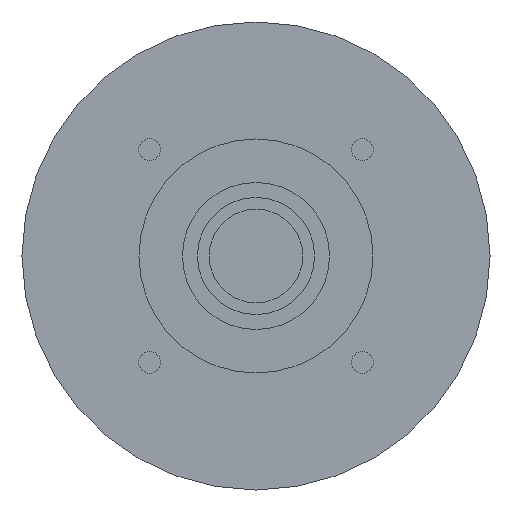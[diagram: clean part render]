
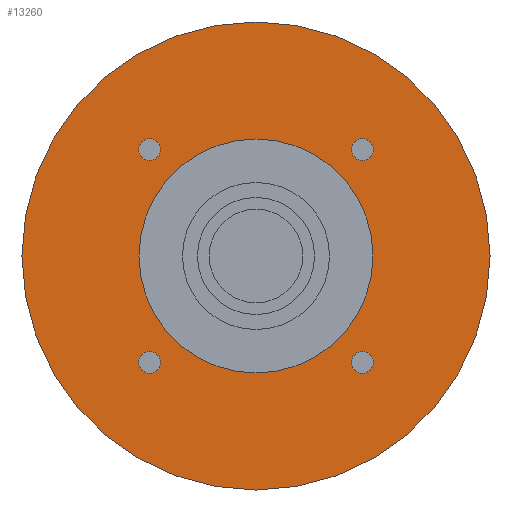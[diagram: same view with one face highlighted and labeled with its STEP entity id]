
A CAD part, left-side view. The second image highlights one B-rep face of the part: STEP entity #13260.
In plain terms, the highlighted planar face has unit normal (-1, 0, 0) as drawn and (0, 0, -1) by its records, which use the part's own axes.
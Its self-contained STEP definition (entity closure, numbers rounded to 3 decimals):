
#12100=CARTESIAN_POINT('',(31.82,28.57,-79.7));
#12110=VERTEX_POINT('',#12100);
#12140=CARTESIAN_POINT('',(31.82,31.82,-79.7));
#12150=DIRECTION('',(0.,0.,-1.));
#12160=DIRECTION('',(0.,1.,0.));
#12170=AXIS2_PLACEMENT_3D('',#12140,#12150,#12160);
#12180=CIRCLE('',#12170,3.25);
#12190=CARTESIAN_POINT('',(31.82,35.07,-79.7));
#12200=VERTEX_POINT('',#12190);
#12210=EDGE_CURVE('',#12200,#12110,#12180,.T.);
#12330=CARTESIAN_POINT('',(0.,0.,
-79.7));
#12340=DIRECTION('',(0.,0.,-1.));
#12350=DIRECTION('',(1.,0.,0.));
#12360=AXIS2_PLACEMENT_3D('',#12330,#12340,#12350);
#12370=PLANE('',#12360);
#12380=CARTESIAN_POINT('',(-31.82,31.82,-79.7));
#12390=DIRECTION('',(0.,0.,-1.));
#12400=DIRECTION('',(-1.,0.,0.));
#12410=AXIS2_PLACEMENT_3D('',#12380,#12390,#12400);
#12420=CIRCLE('',#12410,3.25);
#12430=CARTESIAN_POINT('',(-35.07,31.82,-79.7));
#12440=VERTEX_POINT('',#12430);
#12450=CARTESIAN_POINT('',(-28.57,31.82,-79.7));
#12460=VERTEX_POINT('',#12450);
#12470=EDGE_CURVE('',#12440,#12460,#12420,.T.);
#12480=ORIENTED_EDGE('',*,*,#12470,.F.);
#12490=EDGE_CURVE('',#12460,#12440,#12420,.T.);
#12500=ORIENTED_EDGE('',*,*,#12490,.F.);
#12510=EDGE_LOOP('',(#12500,#12480));
#12520=FACE_BOUND('',#12510,.T.);
#12530=CARTESIAN_POINT('',(-31.82,-31.82,-79.7));
#12540=DIRECTION('',(0.,0.,-1.));
#12550=DIRECTION('',(0.,-1.,0.));
#12560=AXIS2_PLACEMENT_3D('',#12530,#12540,#12550);
#12570=CIRCLE('',#12560,3.25);
#12580=CARTESIAN_POINT('',(-31.82,-35.07,-79.7));
#12590=VERTEX_POINT('',#12580);
#12600=CARTESIAN_POINT('',(-31.82,-28.57,-79.7));
#12610=VERTEX_POINT('',#12600);
#12620=EDGE_CURVE('',#12590,#12610,#12570,.T.);
#12630=ORIENTED_EDGE('',*,*,#12620,.F.);
#12640=EDGE_CURVE('',#12610,#12590,#12570,.T.);
#12650=ORIENTED_EDGE('',*,*,#12640,.F.);
#12660=EDGE_LOOP('',(#12650,#12630));
#12670=FACE_BOUND('',#12660,.T.);
#12680=CARTESIAN_POINT('',(0.,0.,
-79.7));
#12690=DIRECTION('',(0.,0.,1.));
#12700=DIRECTION('',(0.,1.,0.));
#12710=AXIS2_PLACEMENT_3D('',#12680,#12690,#12700);
#12720=CIRCLE('',#12710,35.);
#12730=CARTESIAN_POINT('',(-35.,0.,-79.7));
#12740=VERTEX_POINT('',#12730);
#12750=CARTESIAN_POINT('',(35.,0.,-79.7));
#12760=VERTEX_POINT('',#12750);
#12770=EDGE_CURVE('',#12740,#12760,#12720,.T.);
#12780=ORIENTED_EDGE('',*,*,#12770,.T.);
#12790=CARTESIAN_POINT('',(0.,35.,-79.7));
#12800=VERTEX_POINT('',#12790);
#12810=EDGE_CURVE('',#12800,#12740,#12720,.T.);
#12820=ORIENTED_EDGE('',*,*,#12810,.T.);
#12830=EDGE_CURVE('',#12760,#12800,#12720,.T.);
#12840=ORIENTED_EDGE('',*,*,#12830,.T.);
#12850=EDGE_LOOP('',(#12840,#12820,#12780));
#12860=FACE_BOUND('',#12850,.T.);
#12870=CARTESIAN_POINT('',(31.82,-31.82,-79.7));
#12880=DIRECTION('',(0.,0.,-1.));
#12890=DIRECTION('',(1.,0.,0.));
#12900=AXIS2_PLACEMENT_3D('',#12870,#12880,#12890);
#12910=CIRCLE('',#12900,3.25);
#12920=CARTESIAN_POINT('',(35.07,-31.82,-79.7));
#12930=VERTEX_POINT('',#12920);
#12940=CARTESIAN_POINT('',(28.57,-31.82,-79.7));
#12950=VERTEX_POINT('',#12940);
#12960=EDGE_CURVE('',#12930,#12950,#12910,.T.);
#12970=ORIENTED_EDGE('',*,*,#12960,.F.);
#12980=EDGE_CURVE('',#12950,#12930,#12910,.T.);
#12990=ORIENTED_EDGE('',*,*,#12980,.F.);
#13000=EDGE_LOOP('',(#12990,#12970));
#13010=FACE_BOUND('',#13000,.T.);
#13020=ORIENTED_EDGE('',*,*,#12210,.F.);
#13030=EDGE_CURVE('',#12110,#12200,#12180,.T.);
#13040=ORIENTED_EDGE('',*,*,#13030,.F.);
#13050=EDGE_LOOP('',(#13040,#13020));
#13060=FACE_BOUND('',#13050,.T.);
#13070=CARTESIAN_POINT('',(0.,0.,
-79.7));
#13080=DIRECTION('',(0.,0.,-1.));
#13090=DIRECTION('',(0.,-1.,0.));
#13100=AXIS2_PLACEMENT_3D('',#13070,#13080,#13090);
#13110=CIRCLE('',#13100,70.);
#13120=CARTESIAN_POINT('',(-70.,0.,-79.7));
#13130=VERTEX_POINT('',#13120);
#13140=CARTESIAN_POINT('',(70.,0.,-79.7));
#13150=VERTEX_POINT('',#13140);
#13160=EDGE_CURVE('',#13130,#13150,#13110,.T.);
#13170=ORIENTED_EDGE('',*,*,#13160,.T.);
#13180=CARTESIAN_POINT('',(0.,-70.,-79.7));
#13190=VERTEX_POINT('',#13180);
#13200=EDGE_CURVE('',#13190,#13130,#13110,.T.);
#13210=ORIENTED_EDGE('',*,*,#13200,.T.);
#13220=EDGE_CURVE('',#13150,#13190,#13110,.T.);
#13230=ORIENTED_EDGE('',*,*,#13220,.T.);
#13240=EDGE_LOOP('',(#13230,#13210,#13170));
#13250=FACE_OUTER_BOUND('',#13240,.T.);
#13260=ADVANCED_FACE('',(#12520,#12670,#12860,#13010,#13060,#13250),
#12370,.T.);
